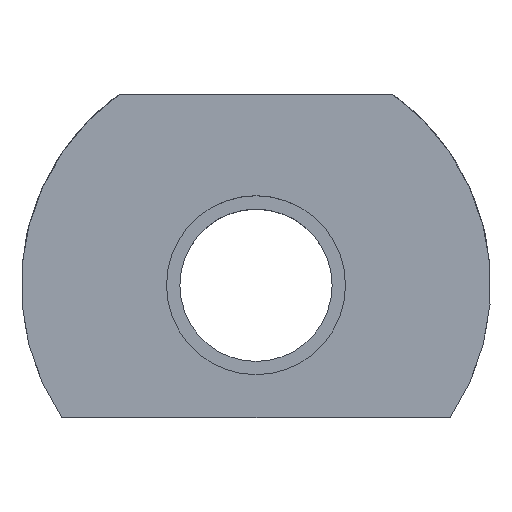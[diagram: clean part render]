
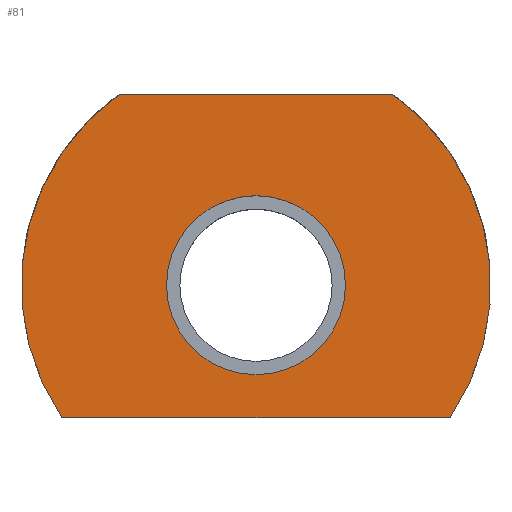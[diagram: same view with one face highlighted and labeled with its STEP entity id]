
A CAD part, top view. The second image highlights one B-rep face of the part: STEP entity #81.
In plain terms, the highlighted planar face has unit normal (0, 0, 1).
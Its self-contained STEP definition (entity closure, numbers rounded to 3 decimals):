
#81 = ADVANCED_FACE( '', ( #131, #132 ), #133, .T. );
#131 = FACE_BOUND( '', #228, .T. );
#132 = FACE_OUTER_BOUND( '', #229, .T. );
#133 = PLANE( '', #230 );
#228 = EDGE_LOOP( '', ( #339 ) );
#229 = EDGE_LOOP( '', ( #340, #341, #342, #343 ) );
#230 = AXIS2_PLACEMENT_3D( '', #344, #345, #346 );
#339 = ORIENTED_EDGE( '', *, *, #574, .T. );
#340 = ORIENTED_EDGE( '', *, *, #575, .T. );
#341 = ORIENTED_EDGE( '', *, *, #576, .T. );
#342 = ORIENTED_EDGE( '', *, *, #577, .T. );
#343 = ORIENTED_EDGE( '', *, *, #578, .T. );
#344 = CARTESIAN_POINT( '', ( 0., 0., 6. ) );
#345 = DIRECTION( '', ( 0., 0., 1. ) );
#346 = DIRECTION( '', ( 1., 0., 0. ) );
#574 = EDGE_CURVE( '', #657, #657, #658, .T. );
#575 = EDGE_CURVE( '', #659, #660, #661, .T. );
#576 = EDGE_CURVE( '', #660, #662, #663, .T. );
#577 = EDGE_CURVE( '', #662, #664, #665, .T. );
#578 = EDGE_CURVE( '', #664, #659, #666, .T. );
#657 = VERTEX_POINT( '', #844 );
#658 = CIRCLE( '', #845, 6.1 );
#659 = VERTEX_POINT( '', #846 );
#660 = VERTEX_POINT( '', #847 );
#661 = LINE( '', #848, #849 );
#662 = VERTEX_POINT( '', #850 );
#663 = CIRCLE( '', #851, 16. );
#664 = VERTEX_POINT( '', #852 );
#665 = LINE( '', #853, #854 );
#666 = CIRCLE( '', #855, 16. );
#844 = CARTESIAN_POINT( '', ( -6.1, 0., 6. ) );
#845 = AXIS2_PLACEMENT_3D( '', #1023, #1024, #1025 );
#846 = CARTESIAN_POINT( '', ( 9.327, 13., 6. ) );
#847 = CARTESIAN_POINT( '', ( -9.327, 13., 6. ) );
#848 = CARTESIAN_POINT( '', ( 9.327, 13., 6. ) );
#849 = VECTOR( '', #1026, 1000. );
#850 = CARTESIAN_POINT( '', ( -13.229, -9., 6. ) );
#851 = AXIS2_PLACEMENT_3D( '', #1027, #1028, #1029 );
#852 = CARTESIAN_POINT( '', ( 13.229, -9., 6. ) );
#853 = CARTESIAN_POINT( '', ( -13.229, -9., 6. ) );
#854 = VECTOR( '', #1030, 1000. );
#855 = AXIS2_PLACEMENT_3D( '', #1031, #1032, #1033 );
#1023 = CARTESIAN_POINT( '', ( 0., 0., 6. ) );
#1024 = DIRECTION( '', ( 0., 0., -1. ) );
#1025 = DIRECTION( '', ( -1., 0., 0. ) );
#1026 = DIRECTION( '', ( -1., 0., 0. ) );
#1027 = CARTESIAN_POINT( '', ( 0., 0., 6. ) );
#1028 = DIRECTION( '', ( 0., 0., 1. ) );
#1029 = DIRECTION( '', ( 1., 0., 0. ) );
#1030 = DIRECTION( '', ( 1., 0., 0. ) );
#1031 = CARTESIAN_POINT( '', ( 0., 0., 6. ) );
#1032 = DIRECTION( '', ( 0., 0., 1. ) );
#1033 = DIRECTION( '', ( 1., 0., 0. ) );
